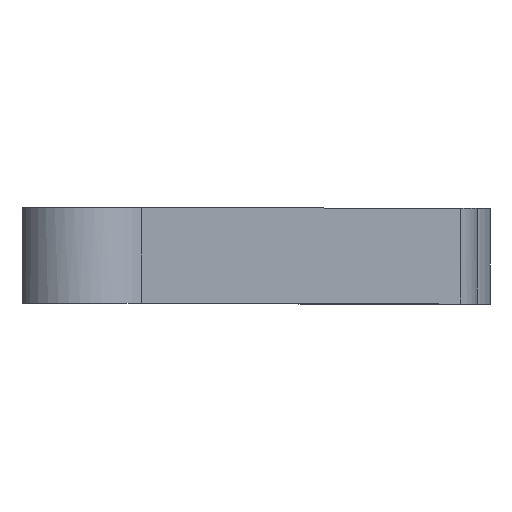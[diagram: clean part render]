
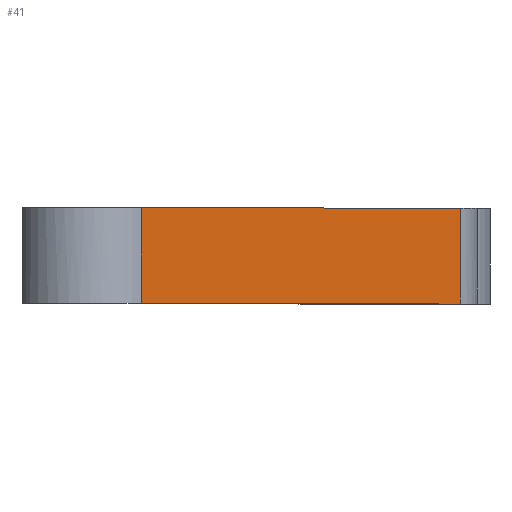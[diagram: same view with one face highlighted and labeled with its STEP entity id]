
A CAD part, top view. The second image highlights one B-rep face of the part: STEP entity #41.
In plain terms, the highlighted planar face has unit normal (0.76, 0, 0.65).
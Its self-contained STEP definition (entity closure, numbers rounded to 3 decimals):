
#41=ADVANCED_FACE('',(#75),#520,.T.);
#75=FACE_OUTER_BOUND('',#109,.T.);
#109=EDGE_LOOP('',(#206,#207,#208,#209));
#206=ORIENTED_EDGE('',*,*,#318,.F.);
#207=ORIENTED_EDGE('',*,*,#319,.F.);
#208=ORIENTED_EDGE('',*,*,#320,.T.);
#209=ORIENTED_EDGE('',*,*,#316,.T.);
#316=EDGE_CURVE('',#464,#463,#390,.T.);
#318=EDGE_CURVE('',#465,#463,#391,.T.);
#319=EDGE_CURVE('',#466,#465,#392,.T.);
#320=EDGE_CURVE('',#466,#464,#393,.T.);
#390=B_SPLINE_CURVE_WITH_KNOTS('',1,(#779,#780),.UNSPECIFIED.,.F.,.F.,(2,
2),(-70.,0.),.UNSPECIFIED.);
#391=B_SPLINE_CURVE_WITH_KNOTS('',1,(#786,#787),.UNSPECIFIED.,.F.,.F.,(2,
2),(1736.822,2095.922),.UNSPECIFIED.);
#392=B_SPLINE_CURVE_WITH_KNOTS('',1,(#788,#789),.UNSPECIFIED.,.F.,.F.,(2,
2),(-70.,0.),.UNSPECIFIED.);
#393=B_SPLINE_CURVE_WITH_KNOTS('',1,(#790,#791),.UNSPECIFIED.,.F.,.F.,(2,
2),(1736.822,2095.922),.UNSPECIFIED.);
#463=VERTEX_POINT('',#742);
#464=VERTEX_POINT('',#743);
#465=VERTEX_POINT('',#744);
#466=VERTEX_POINT('',#745);
#520=PLANE('',#559);
#559=AXIS2_PLACEMENT_3D('',#693,#581,$);
#581=DIRECTION('',(0.76,0.,0.65));
#693=CARTESIAN_POINT('',(-83.964,-35.,428.9));
#742=CARTESIAN_POINT('',(-83.964,-35.,428.9));
#743=CARTESIAN_POINT('',(-83.964,35.,428.9));
#744=CARTESIAN_POINT('',(149.446,-35.,156.004));
#745=CARTESIAN_POINT('',(149.446,35.,156.004));
#779=CARTESIAN_POINT('',(-83.964,35.,428.9));
#780=CARTESIAN_POINT('',(-83.964,-35.,428.9));
#786=CARTESIAN_POINT('',(149.446,-35.,156.004));
#787=CARTESIAN_POINT('',(-83.964,-35.,428.9));
#788=CARTESIAN_POINT('',(149.446,35.,156.004));
#789=CARTESIAN_POINT('',(149.446,-35.,156.004));
#790=CARTESIAN_POINT('',(149.446,35.,156.004));
#791=CARTESIAN_POINT('',(-83.964,35.,428.9));
